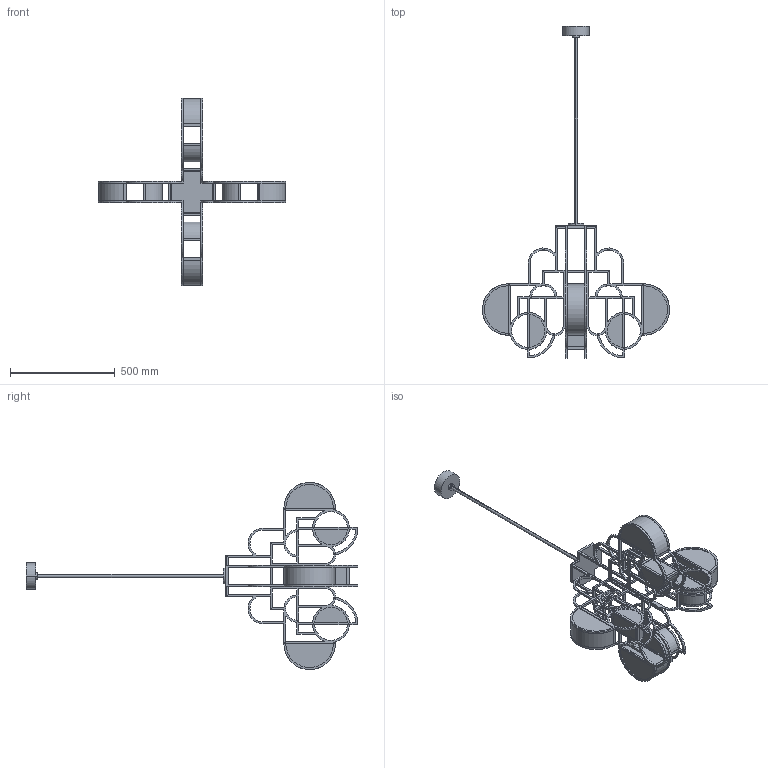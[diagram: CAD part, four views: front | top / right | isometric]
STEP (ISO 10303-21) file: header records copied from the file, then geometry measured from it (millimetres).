
FILE_DESCRIPTION (( 'STEP AP214' ), '1' );
FILE_NAME ('MOONC2 5-4-2021.STEP', '2021-05-04T16:04:49', ( '' ), ( '' ), 'SwSTEP 2.0', 'SolidWorks 2021', '' );
FILE_SCHEMA (( 'AUTOMOTIVE_DESIGN' ));
Length unit declared in the file: millimetre
Products named in the file (1): MOONC2 5-4-2021
Bounding box: 894.62 x 1587.7 x 894.62 mm (x, y, z)
Volume: 17270777.9 mm3; surface area: 1843463.8 mm2
Topology: 2 solids, 6 shells, 1359 faces, 3907 edges, 2583 vertices
Faces by surface type: cylinder 706, plane 653
Entity records: 60506 total; most frequent: CARTESIAN_POINT 8225, DIRECTION 8058, ORIENTED_EDGE 7814, EDGE_CURVE 3907, AXIS2_PLACEMENT_3D 2916, VERTEX_POINT 2583, VECTOR 2226, LINE 2226
